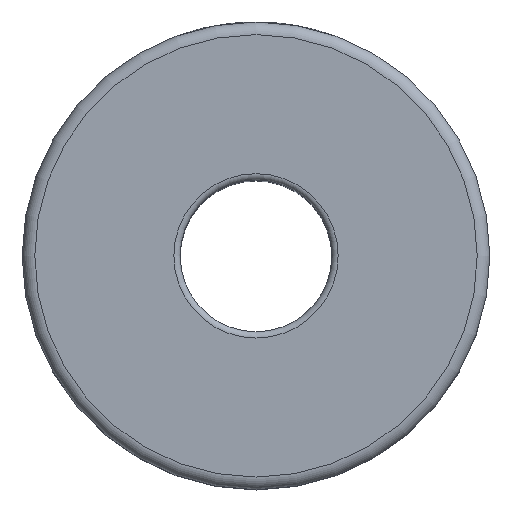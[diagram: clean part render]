
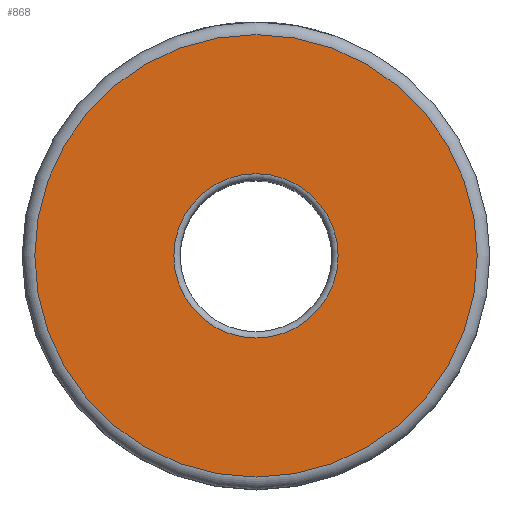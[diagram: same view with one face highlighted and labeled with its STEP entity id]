
A CAD part, top view. The second image highlights one B-rep face of the part: STEP entity #868.
In plain terms, the highlighted planar face has unit normal (0, 0, 1).
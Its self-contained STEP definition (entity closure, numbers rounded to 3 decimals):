
#16=FACE_BOUND('',#208,.T.);
#85=CIRCLE('',#955,6.5);
#89=CIRCLE('',#960,17.5);
#120=PLANE('',#959);
#155=FACE_OUTER_BOUND('',#207,.T.);
#207=EDGE_LOOP('',(#660));
#208=EDGE_LOOP('',(#661));
#424=VERTEX_POINT('',#1598);
#427=VERTEX_POINT('',#1606);
#515=EDGE_CURVE('',#424,#424,#85,.T.);
#519=EDGE_CURVE('',#427,#427,#89,.T.);
#660=ORIENTED_EDGE('',*,*,#519,.F.);
#661=ORIENTED_EDGE('',*,*,#515,.F.);
#868=ADVANCED_FACE('',(#155,#16),#120,.T.);
#955=AXIS2_PLACEMENT_3D('',#1599,#1090,#1091);
#959=AXIS2_PLACEMENT_3D('',#1605,#1098,#1099);
#960=AXIS2_PLACEMENT_3D('',#1607,#1100,#1101);
#1090=DIRECTION('center_axis',(0.,0.,1.));
#1091=DIRECTION('ref_axis',(0.,1.,0.));
#1098=DIRECTION('center_axis',(0.,0.,1.));
#1099=DIRECTION('ref_axis',(1.,0.,0.));
#1100=DIRECTION('center_axis',(0.,0.,-1.));
#1101=DIRECTION('ref_axis',(0.,1.,0.));
#1598=CARTESIAN_POINT('',(6.5,0.,0.));
#1599=CARTESIAN_POINT('Origin',(0.,0.,0.));
#1605=CARTESIAN_POINT('Origin',(0.,-18.5,0.));
#1606=CARTESIAN_POINT('',(17.5,0.,0.));
#1607=CARTESIAN_POINT('Origin',(0.,0.,0.));
